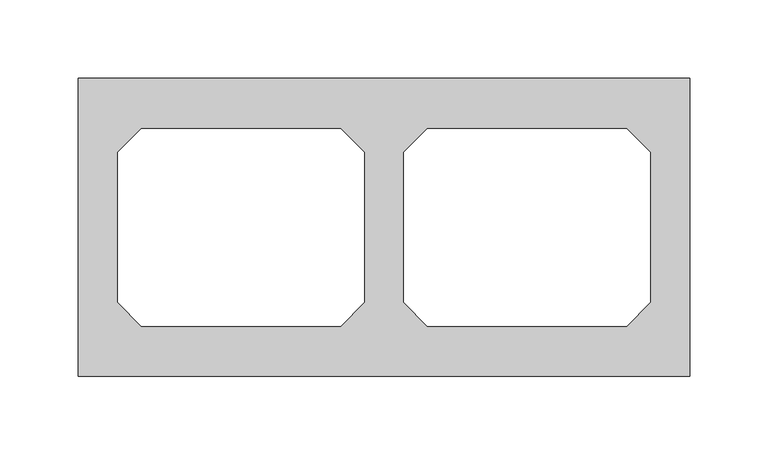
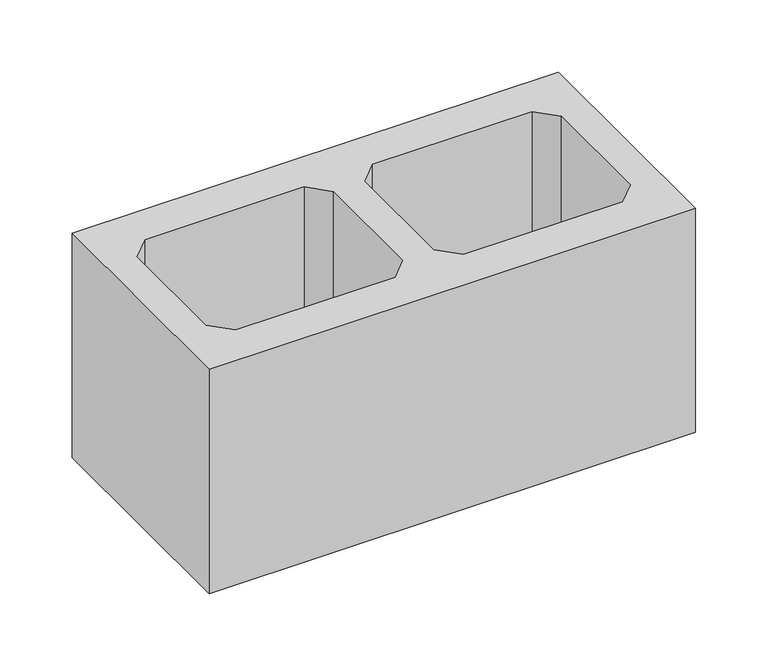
"""IFC4 building model written with IfcOpenShell, lengths in millimetres: proxy geometry, Bloco de Concreto - Inteiro : Família 20 x 40 - Classe A."""

from ifc_helpers import new_model, si_unit, origin, origin_with_axes, place, context, project, spatial, polyline, outline, extrude, source, transform, mapped, element, save


def generic_models_79be39f6(model_context):
    return source(origin(), model_context, "Body", "SweptSolid", [
        extrude(outline(polyline([(195.0, 95.0), (195.0, -95.0), (-195.0, -95.0), (-195.0, 95.0), (195.0, 95.0)]), holes=[polyline([(-27.5, 63.0), (-155.0, 63.0), (-170.0, 48.0), (-170.0, -48.0), (-155.0, -63.0), (-27.5, -63.0), (-12.5, -48.0), (-12.5, 48.0), (-27.5, 63.0)]), polyline([(155.0, 63.0), (27.5, 63.0), (12.5, 48.0), (12.5, -48.0), (27.5, -63.0), (155.0, -63.0), (170.0, -48.0), (170.0, 48.0), (155.0, 63.0)])]), origin_with_axes(), (0.0, 0.0, 1.0), 190.0),
    ])


if __name__ == "__main__":
    model = new_model("IFC4")
    model_context = context("Model", 3, world=origin())
    ifc_project = project(units=[si_unit("LENGTHUNIT", "METRE", prefix="MILLI")], contexts=[model_context])
    site = spatial("IfcSite", under=ifc_project)
    building = spatial("IfcBuilding", under=site)
    placement = place(None, origin())
    generic_models_shape = generic_models_79be39f6(model_context)
    element("IfcBuildingElementProxy", 1, Name="Bloco de Concreto - Inteiro : Família 20 x 40 - Classe A", ObjectType="Bloco de Concreto - Inteiro : Família 20 x 40 - Classe A", at=placement, inside=building, context=model_context, shape_type="MappedRepresentation", body=[
        mapped(generic_models_shape, transform((0.0, 0.0, 0.0), x_axis=(1.0, 0.0, 0.0), y_axis=(0.0, 1.0, 0.0), z_axis=(0.0, 0.0, 1.0))),
    ])
    save(model, "model.ifc")
